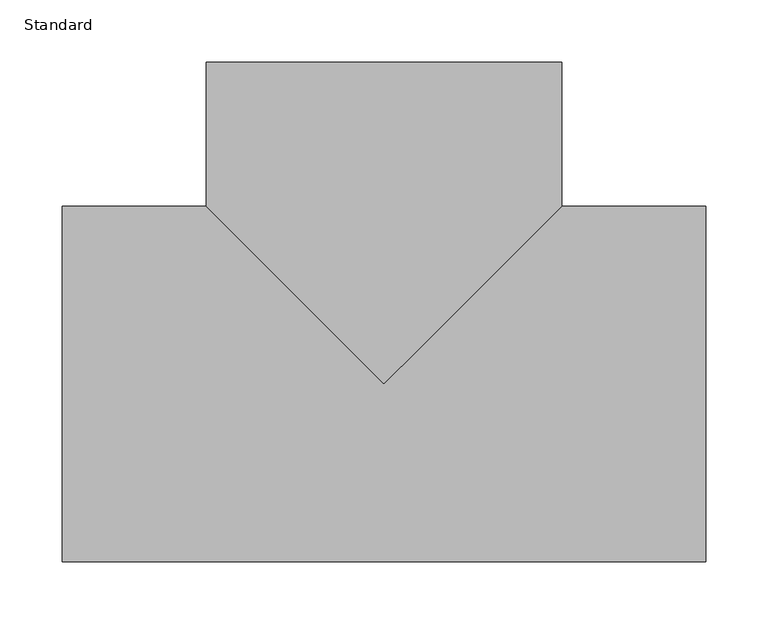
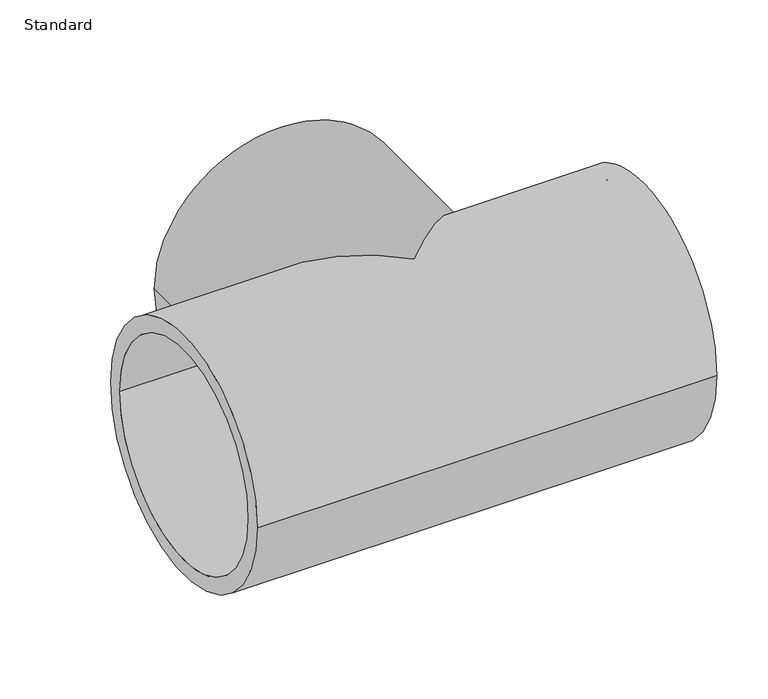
"""IFC4 building model written with IfcOpenShell, lengths in millimetres: pipe fitting geometry, Durapipe_PipeFitting_PVC_Tee90degEqual : Standard."""

import ifcopenshell
import ifcopenshell.guid

model = None  # the IFC model being written
_history = None  # IfcOwnerHistory: only IFC2X3 demands one
_inside = {}  # id of a spatial element -> (the spatial element, [elements in it])
_under = {}  # id of a project, library or spatial element -> (it, [spatial elements below it])
_declared = {}  # id of a project -> (the project, [libraries it declares])
_typed = {}  # id of a type object -> (the type object, [elements of that type])
_made_of = {}  # id of a material, layer set ... -> (it, [elements and type objects made of it])


def new_model(schema):
    """Start an empty IFC model of exactly this schema.

    Asked for "IFC4X3", IfcOpenShell would pick the latest addendum, in which some entities
    have other attributes; the version numbers below select the first issue.
    IFC2X3 requires an IfcOwnerHistory on every rooted entity: one is made here for all.
    """
    global model, _history
    if schema == "IFC4X3":
        model = ifcopenshell.file(schema_version=(4, 3, 0, 0))
    else:
        model = ifcopenshell.file(schema=schema)
    _inside.clear()
    _under.clear()
    _declared.clear()
    _typed.clear()
    _made_of.clear()
    _history = None
    if model.schema == "IFC2X3":
        org = make("IfcOrganization", Name="unknown")
        user = make(
            "IfcPersonAndOrganization",
            ThePerson=make("IfcPerson", FamilyName="unknown"),
            TheOrganization=org,
        )
        app = make(
            "IfcApplication",
            ApplicationDeveloper=org,
            Version="unknown",
            ApplicationFullName="unknown",
            ApplicationIdentifier="unknown",
        )
        _history = make(
            "IfcOwnerHistory",
            OwningUser=user,
            OwningApplication=app,
            ChangeAction="ADDED",
            CreationDate=0,
        )
    return model


def make(cls, **values):
    """One entity of the class cls with the attributes given. An attribute that is None is left unset."""
    return model.create_entity(
        cls, **{name: value for name, value in values.items() if value is not None}
    )


def rooted(cls, **values):
    """An entity with a GlobalId (a new one), such as an element, a storey or a relation."""
    return make(cls, GlobalId=ifcopenshell.guid.new(), OwnerHistory=_history, **values)


def si_unit(unit_type, name, prefix=None):
    """IfcSIUnit, for example si_unit("LENGTHUNIT", "METRE", prefix="MILLI")."""
    return make("IfcSIUnit", UnitType=unit_type, Prefix=prefix, Name=name)


def assignment(units):
    """IfcUnitAssignment: the units of a project."""
    return None if units is None else make("IfcUnitAssignment", Units=units)


def point(xyz):
    """IfcCartesianPoint."""
    return None if xyz is None else make("IfcCartesianPoint", Coordinates=xyz)


def direction(xyz):
    """IfcDirection."""
    return None if xyz is None else make("IfcDirection", DirectionRatios=xyz)


def frame(location, z_axis=None, x_axis=None):
    """IfcAxis2Placement3D, a coordinate frame: its origin and axes. An axis left out is left unset."""
    return make(
        "IfcAxis2Placement3D",
        Location=point(location),
        Axis=direction(z_axis),
        RefDirection=direction(x_axis),
    )


def origin():
    """The frame at (0, 0, 0) with its axes left unset."""
    return frame((0.0, 0.0, 0.0))


def place(relative_to, where):
    """IfcLocalPlacement: puts the frame where relative to a parent placement (None: the world)."""
    return make(
        "IfcLocalPlacement", PlacementRelTo=relative_to, RelativePlacement=where
    )


def context(
    kind, dimensions, precision=None, world=None, true_north=None, identifier=None
):
    """IfcGeometricRepresentationContext, for example the 3D "Model" context."""
    return make(
        "IfcGeometricRepresentationContext",
        ContextIdentifier=identifier,
        ContextType=kind,
        CoordinateSpaceDimension=dimensions,
        Precision=precision,
        WorldCoordinateSystem=world,
        TrueNorth=true_north,
    )


def project(units=None, contexts=None):
    """IfcProject with its units and contexts."""
    return rooted(
        "IfcProject",
        Name="project",
        RepresentationContexts=contexts,
        UnitsInContext=assignment(units),
    )


def spatial(cls, under=None, at=None, **own):
    """A site, building, storey or space (cls), placed at a placement, below another one or the project."""
    s = rooted(cls, ObjectPlacement=at, **own)
    if under is not None:
        _under.setdefault(under.id(), (under, []))[1].append(s)
    return s


def polyline(points):
    """IfcPolyline through the points."""
    return make("IfcPolyline", Points=[point(p) for p in points])


def circle_curve(where, radius):
    """IfcCircle in the frame where."""
    return make("IfcCircle", Position=where, Radius=radius)


def ellipse_curve(where, semi_axis1, semi_axis2):
    """IfcEllipse in the frame where."""
    return make(
        "IfcEllipse", Position=where, SemiAxis1=semi_axis1, SemiAxis2=semi_axis2
    )


def shape(context_of_items, identifier, shape_type, items):
    """IfcShapeRepresentation: the items that make up one representation, for example the "Body"."""
    return make(
        "IfcShapeRepresentation",
        ContextOfItems=context_of_items,
        RepresentationIdentifier=identifier,
        RepresentationType=shape_type,
        Items=items,
    )


def source(mapping_origin, context_of_items, identifier, shape_type, items):
    """IfcRepresentationMap: a shape defined once, which mapped items show again and again."""
    return make(
        "IfcRepresentationMap",
        MappingOrigin=mapping_origin,
        MappedRepresentation=shape(context_of_items, identifier, shape_type, items),
    )


def transform(
    local_origin,
    x_axis=None,
    y_axis=None,
    z_axis=None,
    scale=None,
    scale2=None,
    scale3=None,
    uniform=True,
):
    """IfcCartesianTransformationOperator3D, or its non-uniform kind. x_axis, y_axis, z_axis: its Axis1, 2, 3."""
    if uniform:
        return make(
            "IfcCartesianTransformationOperator3D",
            Axis1=direction(x_axis),
            Axis2=direction(y_axis),
            LocalOrigin=point(local_origin),
            Scale=scale,
            Axis3=direction(z_axis),
        )
    return make(
        "IfcCartesianTransformationOperator3DnonUniform",
        Axis1=direction(x_axis),
        Axis2=direction(y_axis),
        LocalOrigin=point(local_origin),
        Scale=scale,
        Axis3=direction(z_axis),
        Scale2=scale2,
        Scale3=scale3,
    )


def mapped(mapping_source, mapping_target):
    """IfcMappedItem: shows the shape of a source again, moved by a transform."""
    return make(
        "IfcMappedItem", MappingSource=mapping_source, MappingTarget=mapping_target
    )


def made_of(thing, what):
    """Note that an element or type object is made of a material, layer set ...; save() writes the relation."""
    if what is not None:
        _made_of.setdefault(what.id(), (what, []))[1].append(thing)
    return thing


def element(
    cls,
    number,
    at=None,
    inside=None,
    cuts=None,
    type_object=None,
    material=None,
    context=None,
    identifier="Body",
    shape_type=None,
    held_by="IfcProductDefinitionShape",
    body=None,
    shapes=None,
    **own,
):
    """One element of the class cls, such as IfcWall. Its Tag is "e" and its number.

    at: its placement. inside: the storey or other place that contains it. cuts: it is an
    opening in that element (IfcRelVoidsElement). A single representation is given by context,
    identifier, shape_type and body (its items); several are given by shapes. held_by: the class
    of the entity that holds the representations. save() writes the other relations.
    """
    e = rooted(cls, Tag="e%d" % number, ObjectPlacement=at, **own)
    if body is not None:
        shapes = [shape(context, identifier, shape_type, body)]
    if shapes is not None:
        e.Representation = make(held_by, Representations=shapes)
    if inside is not None:
        _inside.setdefault(inside.id(), (inside, []))[1].append(e)
    if cuts is not None:
        rooted(
            "IfcRelVoidsElement", RelatingBuildingElement=cuts, RelatedOpeningElement=e
        )
    if type_object is not None:
        _typed.setdefault(type_object.id(), (type_object, []))[1].append(e)
    return made_of(e, material)


def aggregate(whole, parts):
    """IfcRelAggregates: a whole, such as a stair, and the parts it consists of."""
    return rooted("IfcRelAggregates", RelatingObject=whole, RelatedObjects=parts)


def save(model, path):
    """Write the relations noted so far, then the file.

    IfcRelAggregates (storeys below a building ...), IfcRelContainedInSpatialStructure (elements
    in a storey), IfcRelDefinesByType, IfcRelAssociatesMaterial and IfcRelDeclares: one each for
    every whole, place, type object, material and project.
    """
    for whole, parts in _under.values():
        aggregate(whole, parts)
    for where, things in _inside.values():
        rooted(
            "IfcRelContainedInSpatialStructure",
            RelatedElements=things,
            RelatingStructure=where,
        )
    for kind, things in _typed.values():
        rooted("IfcRelDefinesByType", RelatedObjects=things, RelatingType=kind)
    for what, things in _made_of.values():
        rooted("IfcRelAssociatesMaterial", RelatedObjects=things, RelatingMaterial=what)
    for by, libraries in _declared.values():
        rooted("IfcRelDeclares", RelatingContext=by, RelatedDefinitions=libraries)
    model.write(path)


def plane_surface(at):
    """IfcPlane: the flat surface through the origin of the frame at, square to its z axis."""
    return make("IfcPlane", Position=at)


def cylinder_surface(at, radius):
    """IfcCylindricalSurface: all points at the distance radius from the z axis of the frame at."""
    return make("IfcCylindricalSurface", Position=at, Radius=radius)


def revolved_surface(curve, axis_point, axis_direction):
    """IfcSurfaceOfRevolution: the curve turned about the line through axis_point along axis_direction."""
    return make(
        "IfcSurfaceOfRevolution",
        SweptCurve=make("IfcArbitraryOpenProfileDef", ProfileType="CURVE", Curve=curve),
        AxisPosition=make("IfcAxis1Placement", Location=point(axis_point), Axis=direction(axis_direction)),
    )


def advanced_brep(points, edges, surfaces, faces):
    """IfcAdvancedBrep: a solid bounded by faces that lie on surfaces and meet in shared edges.

    An edge is (start, end): straight between two places in points (the first is 0);
    or (start, end, curve); or (start, end, curve, False) where it runs against its curve.
    A face is (place in surfaces, loops), or (place, loops, False) where it looks against
    its surface's normal. A loop lists edges by number (the first is 1), with a minus sign
    where the edge is run from its end to its start. The first loop is the outer one.
    """
    corners = [point(p) for p in points]
    vertices = [make("IfcVertexPoint", VertexGeometry=c) for c in corners]
    made = []
    for start, end, *more in edges:
        made.append(
            make(
                "IfcEdgeCurve",
                EdgeStart=vertices[start],
                EdgeEnd=vertices[end],
                EdgeGeometry=more[0] if more else make("IfcPolyline", Points=[corners[start], corners[end]]),
                SameSense=more[1] if len(more) > 1 else True,
            )
        )
    hull = []
    for where, loops, *sense in faces:
        bounds = []
        for j, loop in enumerate(loops):
            ring = [make("IfcOrientedEdge", EdgeElement=made[abs(k) - 1], Orientation=k > 0) for k in loop]
            bounds.append(
                make(
                    "IfcFaceOuterBound" if j == 0 else "IfcFaceBound",
                    Bound=make("IfcEdgeLoop", EdgeList=ring),
                    Orientation=True,
                )
            )
        hull.append(make("IfcAdvancedFace", Bounds=bounds, FaceSurface=surfaces[where], SameSense=sense[0] if sense else True))
    return make("IfcAdvancedBrep", Outer=make("IfcClosedShell", CfsFaces=hull))


def standard_094accc0(model_context):
    return source(origin(), model_context, "Body", "AdvancedBrep", [
        advanced_brep(
        [(-143.0, 259.0, 0.0), (143.0, 259.0, 0.0), (-125.0, 259.0, 0.0), (125.0, 259.0, 0.0), (-143.0, 143.0, 0.0), (0.0, 0.0, 143.0), (143.0, 143.0, 0.0), (0.0, 0.0, -143.0), (-259.0, -143.0, 0.0), (-259.0, 143.0, 0.0), (-259.0, -125.0, 0.0), (-259.0, 125.0, 0.0), (259.0, -143.0, 0.0), (259.0, 143.0, 0.0), (259.0, 125.0, 0.0), (259.0, -125.0, 0.0), (125.0, 128.0, 0.0), (-125.0, 128.0, 0.0), (0.0, 128.0, 0.0), (128.0, -125.0, 0.0), (128.0, 125.0, 0.0), (128.0, 0.0, 0.0), (-128.0, -125.0, 0.0), (-128.0, 125.0, 0.0), (-128.0, 0.0, 0.0)],
        [
            (0, 1, circle_curve(frame((0.0, 259.0, 0.0), z_axis=(0.0, 1.0, 0.0), x_axis=(1.0, 0.0, 0.0)), 143.0)),
            (1, 0, circle_curve(frame((0.0, 259.0, 0.0), z_axis=(0.0, 1.0, 0.0), x_axis=(1.0, 0.0, 0.0)), 143.0)),
            (2, 3, circle_curve(frame((0.0, 259.0, 0.0), z_axis=(0.0, -1.0, 0.0), x_axis=(-1.0, 0.0, 0.0)), 125.0)),
            (3, 2, circle_curve(frame((0.0, 259.0, 0.0), z_axis=(0.0, -1.0, 0.0), x_axis=(-1.0, 0.0, 0.0)), 125.0)),
            (0, 4),
            (4, 5, ellipse_curve(frame((0.0, 0.0, 0.0), z_axis=(0.7071067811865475, 0.7071067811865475, 0.0), x_axis=(-0.7071067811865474, 0.7071067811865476, 0.0)), 202.2325394, 143.0)),
            (5, 6, ellipse_curve(frame((0.0, 0.0, 0.0), z_axis=(-0.7071067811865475, 0.7071067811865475, 0.0), x_axis=(0.7071067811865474, 0.7071067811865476, 0.0)), 202.2325394, 143.0)),
            (6, 1),
            (6, 7, ellipse_curve(frame((0.0, 0.0, 0.0), z_axis=(-0.7071067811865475, 0.7071067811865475, 0.0), x_axis=(0.7071067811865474, 0.7071067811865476, 0.0)), 202.2325394, 143.0)),
            (7, 4, ellipse_curve(frame((0.0, 0.0, 0.0), z_axis=(0.7071067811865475, 0.7071067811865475, 0.0), x_axis=(-0.7071067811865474, 0.7071067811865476, 0.0)), 202.2325394, 143.0)),
            (8, 9, circle_curve(frame((-259.0, 0.0, 0.0), z_axis=(-1.0, 0.0, 0.0), x_axis=(0.0, 1.0, 0.0)), 143.0)),
            (9, 8, circle_curve(frame((-259.0, 0.0, 0.0), z_axis=(-1.0, 0.0, 0.0), x_axis=(0.0, 1.0, 0.0)), 143.0)),
            (10, 11, circle_curve(frame((-259.0, 0.0, 0.0), z_axis=(1.0, 0.0, 0.0), x_axis=(0.0, 1.0, 0.0)), 125.0)),
            (11, 10, circle_curve(frame((-259.0, 0.0, 0.0), z_axis=(1.0, 0.0, 0.0), x_axis=(0.0, 1.0, 0.0)), 125.0)),
            (12, 13, circle_curve(frame((259.0, 0.0, 0.0), z_axis=(1.0, 0.0, 0.0), x_axis=(0.0, 1.0, 0.0)), 143.0)),
            (13, 12, circle_curve(frame((259.0, 0.0, 0.0), z_axis=(1.0, 0.0, 0.0), x_axis=(0.0, 1.0, 0.0)), 143.0)),
            (14, 15, circle_curve(frame((259.0, 0.0, 0.0), z_axis=(-1.0, 0.0, 0.0), x_axis=(0.0, 1.0, 0.0)), 125.0)),
            (15, 14, circle_curve(frame((259.0, 0.0, 0.0), z_axis=(-1.0, 0.0, 0.0), x_axis=(0.0, 1.0, 0.0)), 125.0)),
            (8, 12),
            (13, 6),
            (4, 9),
            (16, 3),
            (2, 17),
            (17, 16, circle_curve(frame((0.0, 128.0, 0.0), z_axis=(0.0, -1.0, 0.0), x_axis=(-1.0, 0.0, 0.0)), 125.0)),
            (16, 17, circle_curve(frame((0.0, 128.0, 0.0), z_axis=(0.0, -1.0, 0.0), x_axis=(-1.0, 0.0, 0.0)), 125.0)),
            (17, 18),
            (18, 16),
            (19, 15),
            (14, 20),
            (20, 19, circle_curve(frame((128.0, 0.0, 0.0), z_axis=(-1.0, 0.0, 0.0), x_axis=(0.0, 1.0, 0.0)), 125.0)),
            (19, 20, circle_curve(frame((128.0, 0.0, 0.0), z_axis=(-1.0, 0.0, 0.0), x_axis=(0.0, 1.0, 0.0)), 125.0)),
            (20, 21),
            (21, 19),
            (10, 22),
            (22, 23, circle_curve(frame((-128.0, 0.0, 0.0), z_axis=(1.0, 0.0, 0.0), x_axis=(0.0, 1.0, 0.0)), 125.0)),
            (23, 11),
            (23, 22, circle_curve(frame((-128.0, 0.0, 0.0), z_axis=(1.0, 0.0, 0.0), x_axis=(0.0, 1.0, 0.0)), 125.0)),
            (22, 24),
            (24, 23),
        ],
        [
            plane_surface(frame((0.0, 259.0, 0.0), z_axis=(0.0, 1.0, 0.0), x_axis=(0.0, 0.0, 1.0))),
            cylinder_surface(frame((0.0, 259.0, 0.0), z_axis=(0.0, 1.0, 0.0), x_axis=(1.0, 0.0, 0.0)), 143.0),
            plane_surface(frame((-259.0, 0.0, 0.0), z_axis=(-1.0, 0.0, 0.0), x_axis=(0.0, 0.0, 1.0))),
            plane_surface(frame((259.0, 0.0, 0.0), z_axis=(1.0, 0.0, 0.0), x_axis=(0.0, 0.0, 1.0))),
            cylinder_surface(frame((-259.0, 0.0, 0.0), z_axis=(-1.0, 0.0, 0.0), x_axis=(0.0, 1.0, 0.0)), 143.0),
            revolved_surface(polyline([(-125.0, 128.0, 0.0), (-125.0, 259.0, 0.0)]), (0.0, 2234.0, 0.0), (0.0, -1.0, 0.0)),
            plane_surface(frame((0.0, 128.0, 0.0), z_axis=(0.0, 1.0, 0.0), x_axis=(-1.0, 0.0, 0.0))),
            revolved_surface(polyline([(128.0, 125.0, 0.0), (259.0, 125.0, 0.0)]), (2235.5, 0.0, 0.0), (-1.0, 0.0, 0.0)),
            plane_surface(frame((128.0, 0.0, 0.0), z_axis=(1.0, 0.0, 0.0), x_axis=(0.0, 1.0, 0.0))),
            revolved_surface(polyline([(-259.0, 125.0, 0.0), (-128.0, 125.0, 0.0)]), (2235.5, 0.0, 0.0), (-1.0, 0.0, 0.0)),
            plane_surface(frame((-128.0, 0.0, 0.0), z_axis=(-1.0, 0.0, 0.0), x_axis=(0.0, 1.0, 0.0))),
        ],
        [
            (0, [[1, 2], [3, 4]]),
            (1, [[-1, 5, 6, 7, 8]]),
            (1, [[-2, -8, 9, 10, -5]]),
            (2, [[11, 12], [13, 14]]),
            (3, [[15, 16], [17, 18]]),
            (4, [[-11, 19, -16, 20, -7, -6, 21]]),
            (4, [[-12, -21, -10, -9, -20, -15, -19]]),
            (5, [[22, -3, 23, 24]]),
            (5, [[-22, 25, -23, -4]]),
            (6, [[-24, 26, 27]]),
            (6, [[-25, -27, -26]]),
            (7, [[28, -17, 29, 30]]),
            (7, [[-28, 31, -29, -18]]),
            (8, [[-30, 32, 33]]),
            (8, [[-31, -33, -32]]),
            (9, [[34, 35, 36, -13]]),
            (9, [[-34, -14, -36, 37]]),
            (10, [[-35, 38, 39]]),
            (10, [[-37, -39, -38]]),
        ],
    ),
    ])


if __name__ == "__main__":
    model = new_model("IFC4")
    model_context = context("Model", 3, world=origin())
    ifc_project = project(units=[si_unit("LENGTHUNIT", "METRE", prefix="MILLI")], contexts=[model_context])
    site = spatial("IfcSite", under=ifc_project)
    building = spatial("IfcBuilding", under=site)
    placement = place(None, origin())
    standard_shape = standard_094accc0(model_context)
    element("IfcPipeFitting", 1, ObjectType="Durapipe_PipeFitting_PVC_Tee90degEqual : Standard", at=placement, inside=building, context=model_context, shape_type="MappedRepresentation", body=[
        mapped(standard_shape, transform((0.0, 0.0, 0.0), x_axis=(1.0, 0.0, 0.0), y_axis=(0.0, 1.0, 0.0), z_axis=(0.0, 0.0, 1.0))),
    ])
    save(model, "model.ifc")
